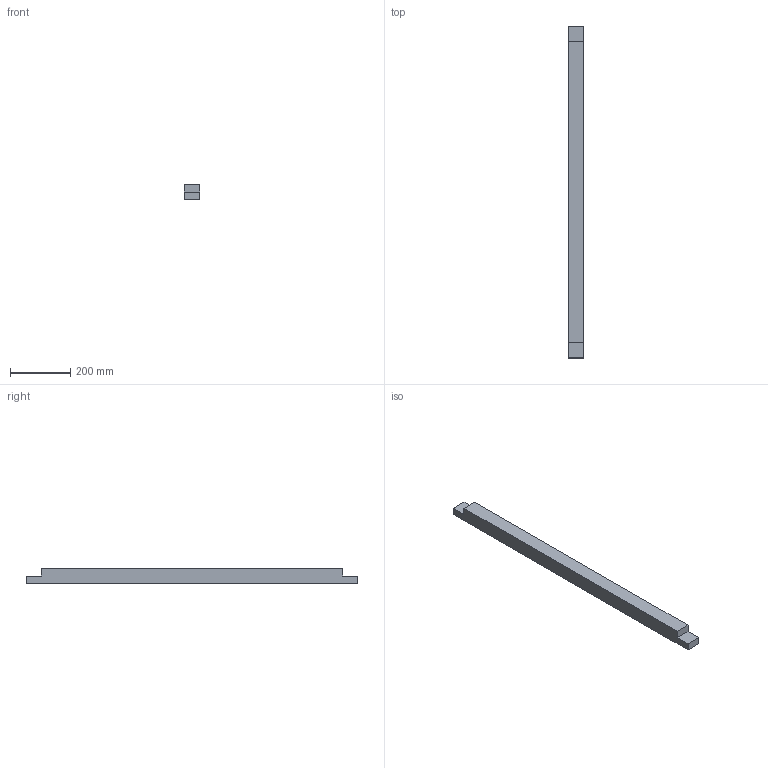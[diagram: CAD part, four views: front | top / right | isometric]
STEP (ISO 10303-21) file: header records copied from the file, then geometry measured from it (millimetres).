
FILE_DESCRIPTION(('Open CASCADE Model'),'2;1');
FILE_NAME('Open CASCADE Shape Model','2026-03-30T20:16:05',('Author'),( 'Open CASCADE'),'Open CASCADE STEP processor 7.8','Open CASCADE 7.8' ,'Unknown');
FILE_SCHEMA(('AUTOMOTIVE_DESIGN { 1 0 10303 214 1 1 1 1 }'));
Length unit declared in the file: millimetre
Products named in the file (1): Open CASCADE STEP translator 7.8 3
Bounding box: 50 x 1100 x 50 mm (x, y, z)
Volume: 2625000 mm3; surface area: 220000 mm2
Topology: 1 solids, 1 shells, 10 faces, 24 edges, 16 vertices
Faces by surface type: plane 10
Entity records: 610 total; most frequent: CARTESIAN_POINT 99, DIRECTION 94, LINE 72, VECTOR 72, ORIENTED_EDGE 48, PCURVE 48, DEFINITIONAL_REPRESENTATION 48, EDGE_CURVE 24
